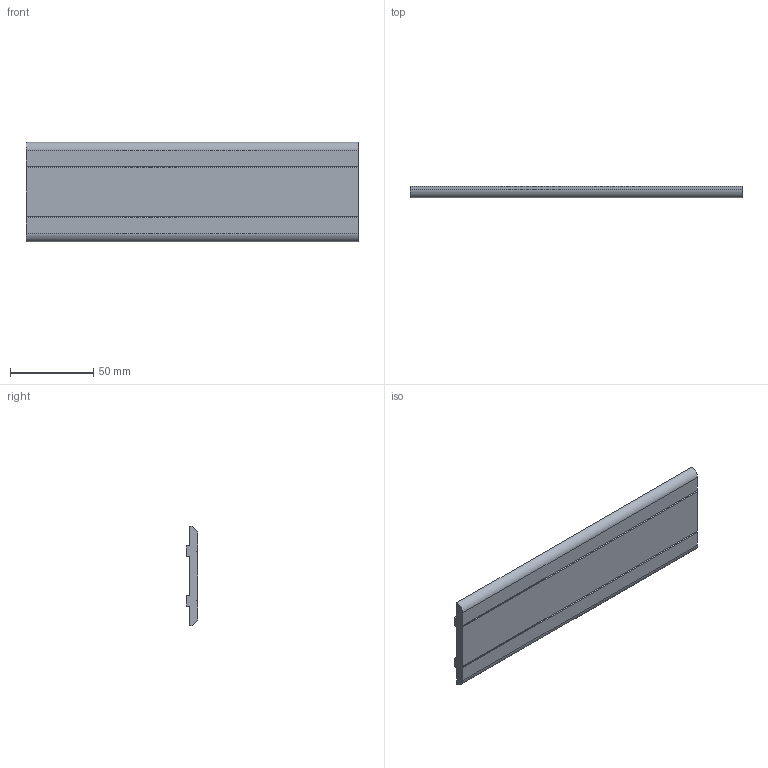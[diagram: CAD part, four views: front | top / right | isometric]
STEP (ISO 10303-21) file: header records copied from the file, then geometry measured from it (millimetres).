
FILE_DESCRIPTION(/* description */ ('Unknown'),/* implementation_level */ '2;1');
FILE_NAME(/* name */ 'NML0560D',/* time_stamp */ '2026-09-02T11:59:02+08:00',/* author */ ('Unknown'),/* organization */ ('Unknown'),/* preprocessor_version */ 'ST-DEVELOPER v16.7',/* originating_system */ 'DEX',/* authorisation */ $);
FILE_SCHEMA (('AUTOMOTIVE_DESIGN {1 0 10303 214 3 1 1}'));
Length unit declared in the file: millimetre
Products named in the file (1): NML0560D
Bounding box: 200 x 7 x 60 mm (x, y, z)
Volume: 62714 mm3; surface area: 27534.4 mm2
Topology: 1 solids, 1 shells, 20 faces, 54 edges, 36 vertices
Faces by surface type: plane 18, cylinder 2
Entity records: 786 total; most frequent: CARTESIAN_POINT 111, ORIENTED_EDGE 108, DIRECTION 100, EDGE_CURVE 54, LINE 50, VECTOR 50, VERTEX_POINT 36, AXIS2_PLACEMENT_3D 25
